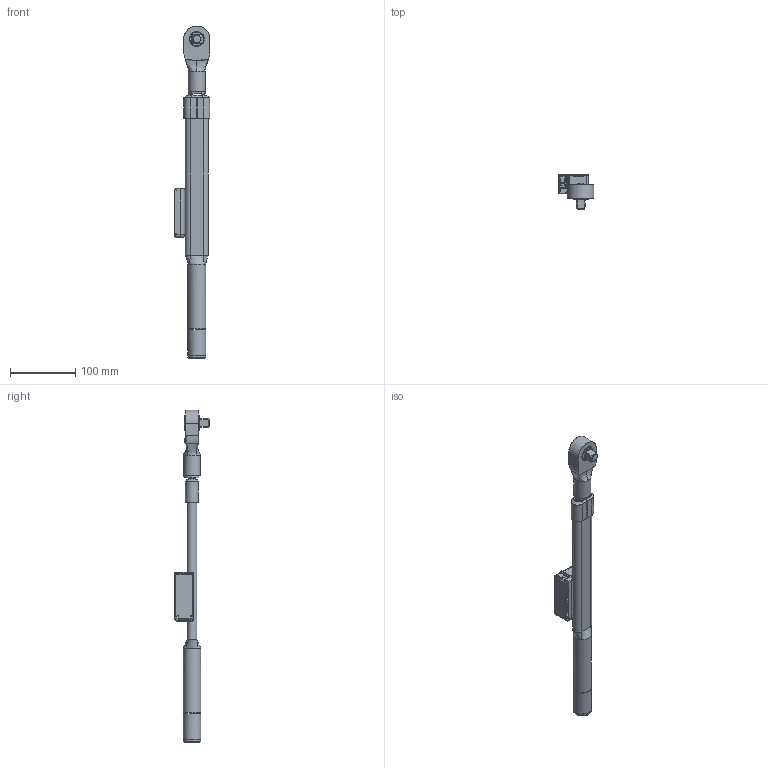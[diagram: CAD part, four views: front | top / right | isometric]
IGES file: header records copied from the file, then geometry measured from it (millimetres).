
Global section: file name: CSPFDD200N3X19D+QH19D; native system: Autodesk Inventor 2016; preprocessor: unknown; author: Q600; date: 20160428.184845; units: millimetre
Bounding box: 54.7 x 53.1 x 509 mm (x, y, z)
Surface area: 64985.9 mm2 (no closed solid volume)
Topology: 0 solids, 0 shells, 148 faces, 1111 edges, 1103 vertices
Faces by surface type: bspline 78, revolution 70
